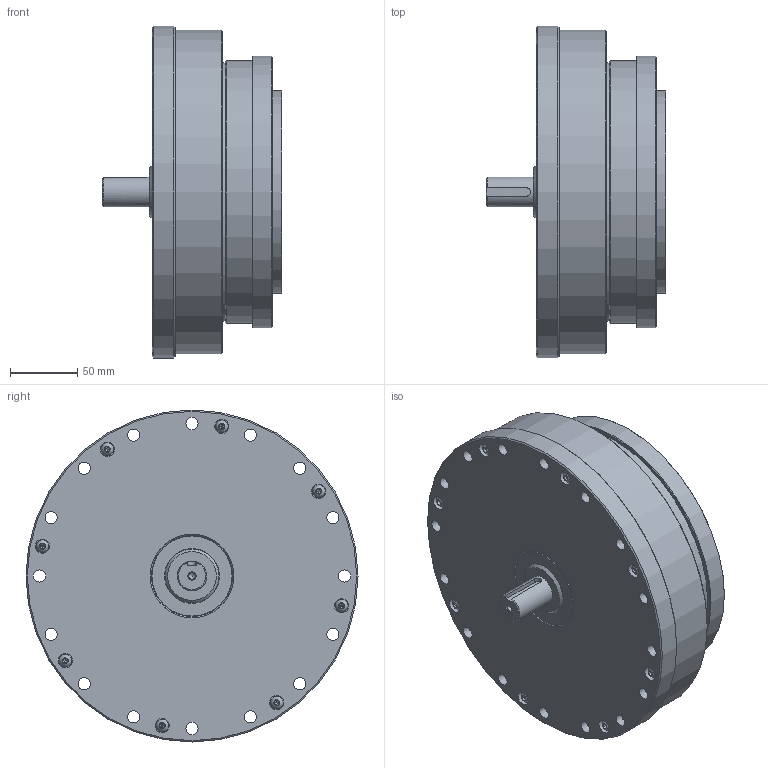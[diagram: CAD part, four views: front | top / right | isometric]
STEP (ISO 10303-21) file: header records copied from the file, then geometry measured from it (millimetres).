
FILE_DESCRIPTION (( 'STEP AP203' ), '1' );
FILE_NAME ('FHG-58-XXX-AJ.STEP', '2025-03-20T05:13:35', ( '微软用户' ), ( '微软中国' ), 'SwSTEP 2.0', 'SolidWorks 2016', '' );
FILE_SCHEMA (( 'CONFIG_CONTROL_DESIGN' ));
Length unit declared in the file: millimetre
Products named in the file (1): FHG-58-XXX-AJ
Bounding box: 133 x 246 x 246 mm (x, y, z)
Volume: 2445543.2 mm3; surface area: 813512.7 mm2
Topology: 58 solids, 58 shells, 964 faces, 2354 edges, 1548 vertices
Faces by surface type: plane 375, cylinder 316, sphere 103, cone 86, torus 84
Full cylindrical faces by diameter (mm): 2.5 x2, 3 x2, 4.2 x8, 5 x15, 5.5 x16, 6 x6, 6.6 x10, 8.5 x12, 9 x48, 10 x6, 10.5 x8, 11 x30, 22 x1, 30 x2, 38 x1, 38.4 x2, 40 x5, 40.758 x2, 41.985 x1, 45.5 x1, 45.915 x1, 48 x1, 49.5 x4, 50 x1, 52.8 x2, 54.5 x1, 55 x2, 56 x1, 56.76 x2, 59.1 x1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
Entity records: 31560 total; most frequent: CARTESIAN_POINT 10683, DIRECTION 4457, ORIENTED_EDGE 3526, AXIS2_PLACEMENT_3D 2012, EDGE_CURVE 1763, EDGE_LOOP 1719, VERTEX_POINT 1362, FACE_OUTER_BOUND 1230
